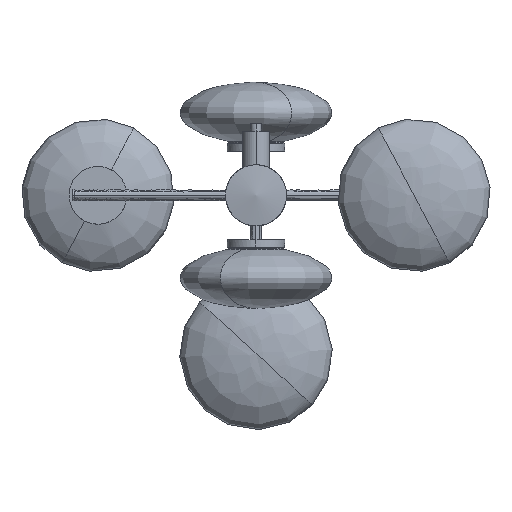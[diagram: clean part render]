
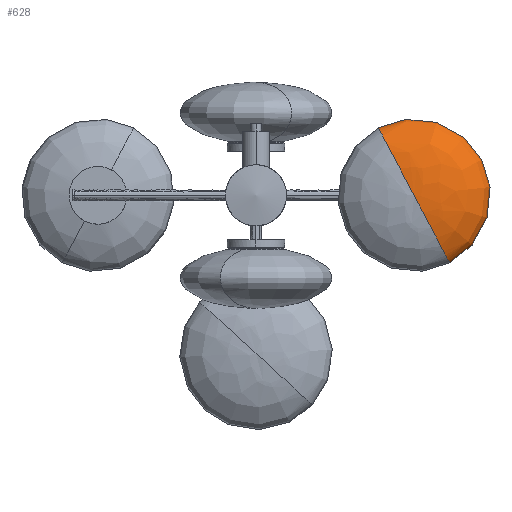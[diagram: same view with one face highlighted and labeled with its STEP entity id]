
A CAD part, left-side view. The second image highlights one B-rep face of the part: STEP entity #628.
In plain terms, the highlighted free-form (B-spline) face has degree [2, 2] with [5, 5] control points.
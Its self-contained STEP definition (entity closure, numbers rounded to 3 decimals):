
#63=B_SPLINE_CURVE_WITH_KNOTS('',3,(#4112,#4113,#4114,#4115),
 .UNSPECIFIED.,.F.,.F.,(4,4),(0.,5.517),.UNSPECIFIED.);
#75=B_SPLINE_CURVE_WITH_KNOTS('',3,(#4233,#4234,#4235,#4236,#4237,#4238,
#4239,#4240,#4241,#4242,#4243),.UNSPECIFIED.,.F.,.F.,(4,1,1,1,1,1,1,1,4),
(0.,5.638,11.276,22.553,45.106,62.021,
78.935,95.85,112.765),.UNSPECIFIED.);
#628=ADVANCED_FACE('',(#841),#3438,.T.);
#841=FACE_OUTER_BOUND('',#1055,.T.);
#1055=EDGE_LOOP('',(#1327,#1328,#1329,#1330));
#1327=ORIENTED_EDGE('',*,*,#2352,.F.);
#1328=ORIENTED_EDGE('',*,*,#2337,.F.);
#1329=ORIENTED_EDGE('',*,*,#2338,.F.);
#1330=ORIENTED_EDGE('',*,*,#2339,.F.);
#2337=EDGE_CURVE('',#3085,#3080,#63,.T.);
#2338=EDGE_CURVE('',#3086,#3085,#2863,.T.);
#2339=EDGE_CURVE('',#3084,#3086,#2864,.T.);
#2352=EDGE_CURVE('',#3080,#3084,#75,.T.);
#2863=(
BOUNDED_CURVE()
B_SPLINE_CURVE(2,(#4116,#4117,#4118,#4119,#4120),.UNSPECIFIED.,.F.,.F.)
B_SPLINE_CURVE_WITH_KNOTS((3,2,3),(0.,192.292,317.447),
 .UNSPECIFIED.)
CURVE()
GEOMETRIC_REPRESENTATION_ITEM()
RATIONAL_B_SPLINE_CURVE((1.,0.707,1.,0.827,1.))
REPRESENTATION_ITEM('')
);
#2864=(
BOUNDED_CURVE()
B_SPLINE_CURVE(2,(#4121,#4122,#4123,#4124,#4125),.UNSPECIFIED.,.F.,.F.)
B_SPLINE_CURVE_WITH_KNOTS((3,2,3),(-317.446,-192.292,
0.),.UNSPECIFIED.)
CURVE()
GEOMETRIC_REPRESENTATION_ITEM()
RATIONAL_B_SPLINE_CURVE((1.,0.827,1.,0.707,1.))
REPRESENTATION_ITEM('')
);
#3080=VERTEX_POINT('',#4065);
#3084=VERTEX_POINT('',#4069);
#3085=VERTEX_POINT('',#4070);
#3086=VERTEX_POINT('',#4071);
#3438=(
BOUNDED_SURFACE()
B_SPLINE_SURFACE(2,2,((#3994,#3995,#3996,#3997,#3998),(#3999,#4000,#4001,
#4002,#4003),(#4004,#4005,#4006,#4007,#4008),(#4009,#4010,#4011,#4012,#4013),
(#4014,#4015,#4016,#4017,#4018)),.UNSPECIFIED.,.F.,.F.,.F.)
B_SPLINE_SURFACE_WITH_KNOTS((3,2,3),(3,2,3),(0.,181.421,362.843),
(0.,200.,400.),.UNSPECIFIED.)
GEOMETRIC_REPRESENTATION_ITEM()
RATIONAL_B_SPLINE_SURFACE(((1.,0.707,1.,0.707,1.),
(0.707,0.5,0.707,0.5,0.707),(1.,0.707,
1.,0.707,1.),(0.707,0.5,0.707,0.5,0.707),
(1.,0.707,1.,0.707,1.)))
REPRESENTATION_ITEM('')
SURFACE()
);
#3994=CARTESIAN_POINT('',(829.346,-193.684,40.));
#3995=CARTESIAN_POINT('',(829.346,-193.684,40.));
#3996=CARTESIAN_POINT('',(829.346,-193.684,40.));
#3997=CARTESIAN_POINT('',(829.346,-193.684,40.));
#3998=CARTESIAN_POINT('',(829.346,-193.684,40.));
#3999=CARTESIAN_POINT('',(829.346,-240.358,-48.439));
#4000=CARTESIAN_POINT('',(829.346,-328.797,-1.765));
#4001=CARTESIAN_POINT('',(829.346,-282.123,86.674));
#4002=CARTESIAN_POINT('',(829.346,-235.449,175.114));
#4003=CARTESIAN_POINT('',(829.346,-147.009,128.439));
#4004=CARTESIAN_POINT('',(869.346,-240.358,-48.439));
#4005=CARTESIAN_POINT('',(869.346,-328.797,-1.765));
#4006=CARTESIAN_POINT('',(869.346,-282.123,86.674));
#4007=CARTESIAN_POINT('',(869.346,-235.449,175.114));
#4008=CARTESIAN_POINT('',(869.346,-147.009,128.439));
#4009=CARTESIAN_POINT('',(909.346,-240.358,-48.439));
#4010=CARTESIAN_POINT('',(909.346,-328.797,-1.765));
#4011=CARTESIAN_POINT('',(909.346,-282.123,86.674));
#4012=CARTESIAN_POINT('',(909.346,-235.449,175.114));
#4013=CARTESIAN_POINT('',(909.346,-147.009,128.439));
#4014=CARTESIAN_POINT('',(909.346,-193.684,40.));
#4015=CARTESIAN_POINT('',(909.346,-193.684,40.));
#4016=CARTESIAN_POINT('',(909.346,-193.684,40.));
#4017=CARTESIAN_POINT('',(909.346,-193.684,40.));
#4018=CARTESIAN_POINT('',(909.346,-193.684,40.));
#4065=CARTESIAN_POINT('',(906.532,-181.533,74.788));
#4069=CARTESIAN_POINT('',(906.532,-210.88,7.416));
#4070=CARTESIAN_POINT('',(906.532,-176.488,72.583));
#4071=CARTESIAN_POINT('',(829.346,-193.684,40.));
#4112=CARTESIAN_POINT('',(906.532,-176.488,72.583));
#4113=CARTESIAN_POINT('',(906.532,-178.111,73.444));
#4114=CARTESIAN_POINT('',(906.532,-179.798,74.183));
#4115=CARTESIAN_POINT('',(906.532,-181.533,74.788));
#4116=CARTESIAN_POINT('',(829.346,-193.684,40.));
#4117=CARTESIAN_POINT('',(829.346,-147.009,128.439));
#4118=CARTESIAN_POINT('',(869.346,-147.009,128.439));
#4119=CARTESIAN_POINT('',(896.52,-147.009,128.439));
#4120=CARTESIAN_POINT('',(906.532,-176.488,72.583));
#4121=CARTESIAN_POINT('',(906.532,-210.88,7.416));
#4122=CARTESIAN_POINT('',(896.52,-240.358,-48.439));
#4123=CARTESIAN_POINT('',(869.346,-240.358,-48.439));
#4124=CARTESIAN_POINT('',(829.346,-240.358,-48.439));
#4125=CARTESIAN_POINT('',(829.346,-193.684,40.));
#4233=CARTESIAN_POINT('',(906.532,-181.533,74.788));
#4234=CARTESIAN_POINT('',(906.532,-183.268,75.394));
#4235=CARTESIAN_POINT('',(906.532,-186.834,76.338));
#4236=CARTESIAN_POINT('',(906.532,-194.148,77.158));
#4237=CARTESIAN_POINT('',(906.532,-207.093,75.725));
#4238=CARTESIAN_POINT('',(906.532,-221.709,66.521));
#4239=CARTESIAN_POINT('',(906.532,-230.491,49.831));
#4240=CARTESIAN_POINT('',(906.532,-231.12,32.898));
#4241=CARTESIAN_POINT('',(906.532,-224.326,17.351));
#4242=CARTESIAN_POINT('',(906.532,-215.754,9.988));
#4243=CARTESIAN_POINT('',(906.532,-210.88,7.416));
